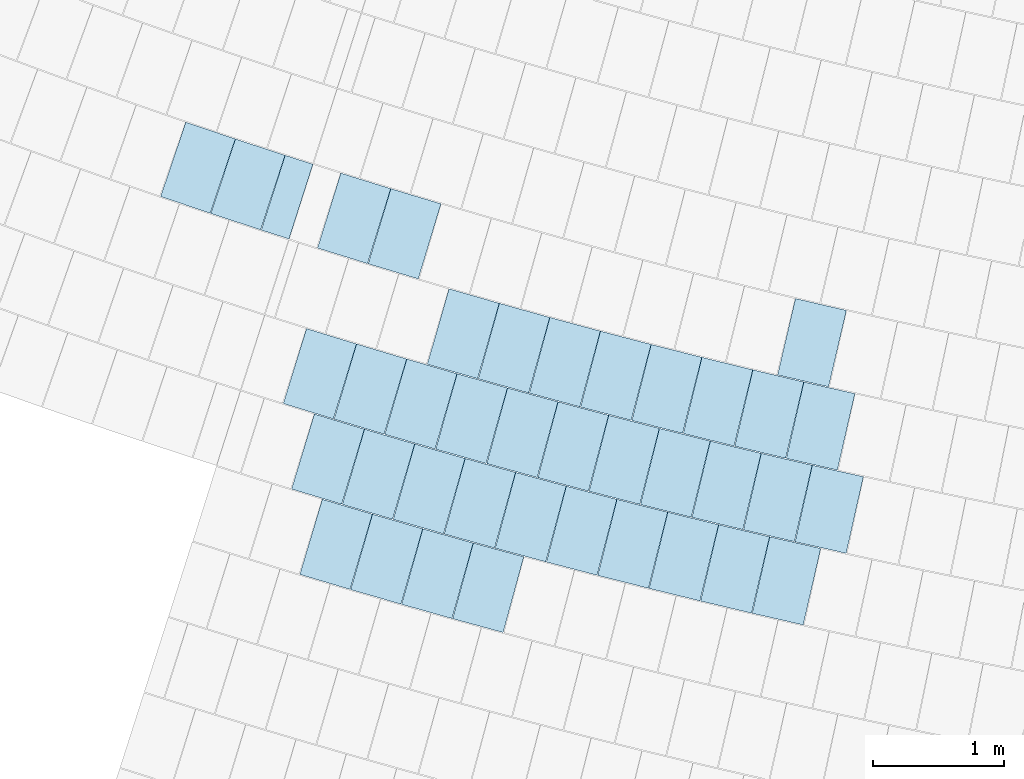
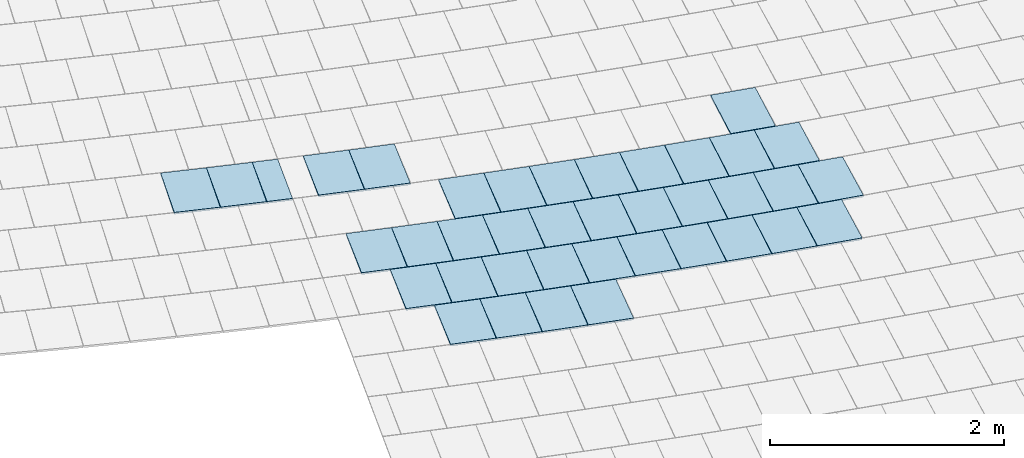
# One storey, part 99 of 438: 39 slabs.
"""IFC2X3 building model written with IfcOpenShell, lengths in millimetres."""

from ifc_helpers import new_model, entity, si_unit, converted_unit, derived_unit, direction, frame, origin, place, context, subcontext, project, spatial, polyline, outline, extrude, material, layer, layer_set, layer_usage, type_object, element, save


model = new_model("IFC2X3")

# Units and contexts
model_context = context("Model", 3, precision=0.01, world=origin(), true_north=direction((6.123031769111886e-17, 1.0)))
body_context = subcontext(model_context, "Body", "Model", "MODEL_VIEW")
ifc_project = project(units=[si_unit("LENGTHUNIT", "METRE", prefix="MILLI"), si_unit("AREAUNIT", "SQUARE_METRE"), si_unit("VOLUMEUNIT", "CUBIC_METRE"), converted_unit("PLANEANGLEUNIT", "DEGREE", entity("IfcRatioMeasure", 0.017453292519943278), si_unit("PLANEANGLEUNIT", "RADIAN"), dimensions=[0, 0, 0, 0, 0, 0, 0]), si_unit("MASSUNIT", "GRAM", prefix="KILO"), derived_unit("MASSDENSITYUNIT", [(si_unit("MASSUNIT", "GRAM", prefix="KILO"), 1), (si_unit("LENGTHUNIT", "METRE"), -3)]), derived_unit("MOMENTOFINERTIAUNIT", [(si_unit("LENGTHUNIT", "METRE"), 4)]), si_unit("TIMEUNIT", "SECOND"), si_unit("FREQUENCYUNIT", "HERTZ"), si_unit("THERMODYNAMICTEMPERATUREUNIT", "DEGREE_CELSIUS"), derived_unit("THERMALTRANSMITTANCEUNIT", [(si_unit("MASSUNIT", "GRAM", prefix="KILO"), 1), (si_unit("THERMODYNAMICTEMPERATUREUNIT", "KELVIN"), -1), (si_unit("TIMEUNIT", "SECOND"), -3)]), derived_unit("THERMALCONDUCTANCEUNIT", [(si_unit("MASSUNIT", "GRAM", prefix="KILO"), 1), (si_unit("LENGTHUNIT", "METRE"), 1), (si_unit("THERMODYNAMICTEMPERATUREUNIT", "KELVIN"), -1), (si_unit("TIMEUNIT", "SECOND"), -3)]), derived_unit("VOLUMETRICFLOWRATEUNIT", [(si_unit("LENGTHUNIT", "METRE"), 3), (si_unit("TIMEUNIT", "SECOND"), -1)]), derived_unit("MASSFLOWRATEUNIT", [(si_unit("MASSUNIT", "GRAM", prefix="KILO"), 1), (si_unit("TIMEUNIT", "SECOND"), -1)]), derived_unit("ROTATIONALFREQUENCYUNIT", [(si_unit("TIMEUNIT", "SECOND"), -1)]), si_unit("ELECTRICCURRENTUNIT", "AMPERE"), si_unit("ELECTRICVOLTAGEUNIT", "VOLT"), si_unit("POWERUNIT", "WATT"), converted_unit("FORCEUNIT", "KIP", entity("IfcRatioMeasure", 2.088543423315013e-05), si_unit("FORCEUNIT", "NEWTON"), dimensions=[1, 1, -2, 0, 0, 0, 0]), si_unit("ILLUMINANCEUNIT", "LUX"), si_unit("LUMINOUSFLUXUNIT", "LUMEN"), si_unit("LUMINOUSINTENSITYUNIT", "CANDELA"), derived_unit("USERDEFINED", [(si_unit("MASSUNIT", "GRAM", prefix="KILO"), -1), (si_unit("LENGTHUNIT", "METRE"), -2), (si_unit("TIMEUNIT", "SECOND"), 3), (si_unit("LUMINOUSFLUXUNIT", "LUMEN"), 1)]), derived_unit("USERDEFINED", [(si_unit("MASSUNIT", "GRAM", prefix="KILO"), 1), (si_unit("LENGTHUNIT", "METRE"), 3), (si_unit("TIMEUNIT", "SECOND"), -3), (si_unit("ELECTRICCURRENTUNIT", "AMPERE"), -2)]), derived_unit("USERDEFINED", [(si_unit("LENGTHUNIT", "METRE"), 2), (si_unit("TIMEUNIT", "SECOND"), -2)]), derived_unit("SOUNDPOWERUNIT", [(si_unit("MASSUNIT", "GRAM", prefix="KILO"), 1), (si_unit("LENGTHUNIT", "METRE"), 2), (si_unit("TIMEUNIT", "SECOND"), -3)]), derived_unit("SOUNDPRESSUREUNIT", [(si_unit("MASSUNIT", "GRAM", prefix="KILO"), 1), (si_unit("LENGTHUNIT", "METRE"), -1), (si_unit("TIMEUNIT", "SECOND"), -2)]), derived_unit("LINEARVELOCITYUNIT", [(si_unit("LENGTHUNIT", "METRE"), 1), (si_unit("TIMEUNIT", "SECOND"), -1)]), si_unit("PRESSUREUNIT", "PASCAL"), derived_unit("USERDEFINED", [(si_unit("LENGTHUNIT", "METRE"), -2), (si_unit("MASSUNIT", "GRAM", prefix="KILO"), 1), (si_unit("TIMEUNIT", "SECOND"), -2)]), derived_unit("LINEARFORCEUNIT", [(si_unit("MASSUNIT", "GRAM", prefix="KILO"), 1), (si_unit("LENGTHUNIT", "METRE"), 1), (si_unit("TIMEUNIT", "SECOND"), -2), (si_unit("LENGTHUNIT", "METRE"), -1)]), derived_unit("PLANARFORCEUNIT", [(si_unit("MASSUNIT", "GRAM", prefix="KILO"), 1), (si_unit("LENGTHUNIT", "METRE"), 1), (si_unit("TIMEUNIT", "SECOND"), -2), (si_unit("LENGTHUNIT", "METRE"), -2)]), derived_unit("SPECIFICHEATCAPACITYUNIT", [(si_unit("LENGTHUNIT", "METRE"), 2), (si_unit("TIMEUNIT", "SECOND"), -2), (si_unit("THERMODYNAMICTEMPERATUREUNIT", "KELVIN"), -1)]), derived_unit("VAPORPERMEABILITYUNIT", [(si_unit("TIMEUNIT", "SECOND"), 1), (si_unit("LENGTHUNIT", "METRE"), -1)]), derived_unit("DYNAMICVISCOSITYUNIT", [(si_unit("MASSUNIT", "GRAM", prefix="KILO"), 1), (si_unit("LENGTHUNIT", "METRE"), -1), (si_unit("TIMEUNIT", "SECOND"), -1)]), derived_unit("THERMALEXPANSIONCOEFFICIENTUNIT", [(si_unit("THERMODYNAMICTEMPERATUREUNIT", "KELVIN"), -1)])], contexts=[model_context])

# Site, building, storey
site_placement = place(None, frame((0.0, 0.0, 0.0), z_axis=(0.0, 0.0, 1.0), x_axis=(0.8191520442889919, 0.5735764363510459, 0.0)))
site = spatial("IfcSite", under=ifc_project, at=site_placement, Name="Default", CompositionType="ELEMENT")
building_placement = place(site_placement, origin())
building = spatial("IfcBuilding", under=site, at=building_placement, CompositionType="ELEMENT")
storey_placement = place(building_placement, origin())
storey = spatial("IfcBuildingStorey", under=building, at=storey_placement, Name="PLAN", CompositionType="ELEMENT", Elevation=0.0)

# Slabs
ifc_material = material(Name="Paint-01")
ifc_layer = layer(ifc_material, 20.00000000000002)
ifc_layer_set = layer_set([ifc_layer], Name="Floor:Slab-179:1000")
ifc_layer_usage = layer_usage(ifc_layer_set, "AXIS3", "POSITIVE", 0.0)
slab_type = type_object("IfcSlabType", Name="Floor:Slab-179:1000", PredefinedType="FLOOR", material=ifc_layer_set)
slab_1_placement = place(storey_placement, origin())
element("IfcSlab", 1, at=slab_1_placement, inside=storey, type_object=slab_type, material=ifc_layer_usage, Name="Floor:Slab-179:1000", ObjectType="Floor:Slab-179:1000", PredefinedType="FLOOR", context=body_context, shape_type="SweptSolid", body=[
    extrude(outline(polyline([(-200.00000134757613, -299.9999986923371), (200.00000453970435, -299.99999869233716), (200.0000013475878, 299.9999986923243), (-200.00000453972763, 299.9999986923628), (-200.00000134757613, -299.9999986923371)])), frame((-78421.81904074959, -102657.59447670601, 520.0), z_axis=(0.0, 0.0, -1.0), x_axis=(0.6734575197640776, -0.739225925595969, 0.0)), (0.0, 0.0, 1.0), 20.000000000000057),
])
slab_2_placement = place(storey_placement, origin())
element("IfcSlab", 2, at=slab_2_placement, inside=storey, type_object=slab_type, material=ifc_layer_usage, Name="Floor:Slab-179:1000", ObjectType="Floor:Slab-179:1000", PredefinedType="FLOOR", context=body_context, shape_type="SweptSolid", body=[
    extrude(outline(polyline([(-200.00000134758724, -299.99999869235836), (200.00000453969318, -299.99999869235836), (200.00000134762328, 299.99999869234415), (-200.00000453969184, 299.9999986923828), (-200.00000134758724, -299.99999869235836)])), frame((-77800.33188114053, -101540.63108631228, 520.0), z_axis=(0.0, 0.0, -1.0), x_axis=(0.667455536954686, -0.7446496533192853, 0.0)), (0.0, 0.0, 1.0), 20.000000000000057),
])
slab_3_placement = place(storey_placement, origin())
element("IfcSlab", 3, at=slab_3_placement, inside=storey, type_object=slab_type, material=ifc_layer_usage, Name="Floor:Slab-179:1000", ObjectType="Floor:Slab-179:1000", PredefinedType="FLOOR", context=body_context, shape_type="SweptSolid", body=[
    extrude(outline(polyline([(-200.00000134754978, -299.9999986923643), (200.00000453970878, -299.9999986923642), (200.00000134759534, 299.99999869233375), (-200.0000045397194, 299.9999986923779), (-200.00000134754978, -299.9999986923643)])), frame((-80118.49774463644, -98759.22815788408, 520.0), z_axis=(0.0, 0.0, -1.0), x_axis=(0.6121922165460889, -0.7907089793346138, 0.0)), (0.0, 0.0, 1.0), 20.000000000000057),
])
slab_4_placement = place(storey_placement, origin())
element("IfcSlab", 4, at=slab_4_placement, inside=storey, type_object=slab_type, material=ifc_layer_usage, Name="Floor:Slab-179:1000", ObjectType="Floor:Slab-179:1000", PredefinedType="FLOOR", context=body_context, shape_type="SweptSolid", body=[
    extrude(outline(polyline([(-200.0000013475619, -299.99999869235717), (200.00000453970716, -299.9999986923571), (200.00000134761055, 299.9999986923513), (-200.00000453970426, 299.99999869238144), (-200.0000013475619, -299.99999869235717)])), frame((-79870.88447537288, -99076.4184600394, 520.0), z_axis=(0.0, 0.0, -1.0), x_axis=(0.6184944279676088, -0.7857891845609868, 0.0)), (0.0, 0.0, 1.0), 20.000000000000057),
])
slab_5_placement = place(storey_placement, origin())
element("IfcSlab", 5, at=slab_5_placement, inside=storey, type_object=slab_type, material=ifc_layer_usage, Name="Floor:Slab-179:1000", ObjectType="Floor:Slab-179:1000", PredefinedType="FLOOR", context=body_context, shape_type="SweptSolid", body=[
    extrude(outline(polyline([(-200.00000134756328, -299.9999986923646), (200.0000045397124, -299.9999986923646), (200.00000134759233, 299.99999869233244), (-200.0000045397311, 299.99999869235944), (-200.00000134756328, -299.9999986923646)])), frame((-78111.37484290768, -102099.40283502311, 520.0), z_axis=(0.0, 0.0, -1.0), x_axis=(0.6704978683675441, -0.7419114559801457, 0.0)), (0.0, 0.0, 1.0), 19.999999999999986),
])
slab_6_placement = place(storey_placement, origin())
element("IfcSlab", 6, at=slab_6_placement, inside=storey, type_object=slab_type, material=ifc_layer_usage, Name="Floor:Slab-179:1000", ObjectType="Floor:Slab-179:1000", PredefinedType="FLOOR", context=body_context, shape_type="SweptSolid", body=[
    extrude(outline(polyline([(-200.00000134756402, -299.9999986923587), (200.00000453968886, -299.9999986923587), (200.00000134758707, 299.9999986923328), (-200.00000453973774, 299.99999869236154), (-200.00000134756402, -299.9999986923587)])), frame((-78379.97969985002, -101799.8190437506, 520.0), z_axis=(0.0, 0.0, -1.0), x_axis=(0.664616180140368, -0.7471849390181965, 0.0)), (0.0, 0.0, 1.0), 20.000000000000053),
])
slab_7_placement = place(storey_placement, origin())
element("IfcSlab", 7, at=slab_7_placement, inside=storey, type_object=slab_type, material=ifc_layer_usage, Name="Floor:Slab-179:1000", ObjectType="Floor:Slab-179:1000", PredefinedType="FLOOR", context=body_context, shape_type="SweptSolid", body=[
    extrude(outline(polyline([(-200.00000134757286, -299.9999986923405), (200.00000453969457, -299.9999986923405), (200.00000134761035, 299.9999986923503), (-200.0000045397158, 299.99999869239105), (-200.00000134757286, -299.9999986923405)])), frame((-78646.20959835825, -101498.12274230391, 520.0), z_axis=(0.0, 0.0, -1.0), x_axis=(0.6586930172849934, -0.7524117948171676, 0.0)), (0.0, 0.0, 1.0), 19.999999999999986),
])
slab_8_placement = place(storey_placement, origin())
element("IfcSlab", 8, at=slab_8_placement, inside=storey, type_object=slab_type, material=ifc_layer_usage, Name="Floor:Slab-179:1000", ObjectType="Floor:Slab-179:1000", PredefinedType="FLOOR", context=body_context, shape_type="SweptSolid", body=[
    extrude(outline(polyline([(-200.00000134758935, -299.99999869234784), (200.00000453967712, -299.9999986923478), (200.00000134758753, 299.9999986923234), (-200.00000453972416, 299.99999869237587), (-200.00000134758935, -299.99999869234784)])), frame((-78910.04792465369, -101194.33275770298, 520.0), z_axis=(0.0, 0.0, -1.0), x_axis=(0.6527287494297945, -0.7575916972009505, 0.0)), (0.0, 0.0, 1.0), 19.999999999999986),
])
slab_9_placement = place(storey_placement, origin())
element("IfcSlab", 9, at=slab_9_placement, inside=storey, type_object=slab_type, material=ifc_layer_usage, Name="Floor:Slab-179:1000", ObjectType="Floor:Slab-179:1000", PredefinedType="FLOOR", context=body_context, shape_type="SweptSolid", body=[
    extrude(outline(polyline([(-200.000001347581, -299.99999869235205), (200.00000453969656, -299.99999869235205), (200.0000013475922, 299.99999869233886), (-200.00000453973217, 299.9999986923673), (-200.000001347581, -299.99999869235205)])), frame((-79171.47821420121, -100888.46804762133, 520.0), z_axis=(0.0, 0.0, -1.0), x_axis=(0.6467237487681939, -0.7627243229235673, 0.0)), (0.0, 0.0, 1.0), 19.999999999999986),
])
slab_10_placement = place(storey_placement, origin())
element("IfcSlab", 10, at=slab_10_placement, inside=storey, type_object=slab_type, material=ifc_layer_usage, Name="Floor:Slab-179:1000", ObjectType="Floor:Slab-179:1000", PredefinedType="FLOOR", context=body_context, shape_type="SweptSolid", body=[
    extrude(outline(polyline([(-200.000001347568, -299.9999986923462), (200.00000453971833, -299.9999986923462), (200.00000134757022, 299.99999869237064), (-200.00000453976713, 299.99999869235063), (-200.000001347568, -299.9999986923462)])), frame((-79430.48415273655, -100580.54769920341, 520.0), z_axis=(0.0, 0.0, -1.0), x_axis=(0.6406783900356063, -0.7678093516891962, 0.0)), (0.0, 0.0, 1.0), 19.999999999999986),
])
slab_11_placement = place(storey_placement, origin())
element("IfcSlab", 11, at=slab_11_placement, inside=storey, type_object=slab_type, material=ifc_layer_usage, Name="Floor:Slab-179:1000", ObjectType="Floor:Slab-179:1000", PredefinedType="FLOOR", context=body_context, shape_type="SweptSolid", body=[
    extrude(outline(polyline([(-200.00000134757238, -299.9999986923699), (200.00000453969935, -299.9999986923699), (200.0000013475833, 299.9999986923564), (-200.00000453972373, 299.99999869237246), (-200.00000134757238, -299.9999986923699)])), frame((-79941.15847716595, -99958.61707613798, 520.0), z_axis=(0.0, 0.0, -1.0), x_axis=(0.6284681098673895, -0.7778353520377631, 0.0)), (0.0, 0.0, 1.0), 20.000000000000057),
])
slab_12_placement = place(storey_placement, origin())
element("IfcSlab", 12, at=slab_12_placement, inside=storey, type_object=slab_type, material=ifc_layer_usage, Name="Floor:Slab-179:1000", ObjectType="Floor:Slab-179:1000", PredefinedType="FLOOR", context=body_context, shape_type="SweptSolid", body=[
    extrude(outline(polyline([(-200.00000134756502, -299.9999986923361), (200.00000453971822, -299.9999986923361), (200.00000134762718, 299.99999869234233), (-200.00000453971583, 299.9999986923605), (-200.00000134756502, -299.9999986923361)])), frame((-79687.04957728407, -100270.59092787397, 520.0), z_axis=(0.0, 0.0, -1.0), x_axis=(0.6345930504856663, -0.7728464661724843, 0.0)), (0.0, 0.0, 1.0), 19.999999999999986),
])
slab_13_placement = place(storey_placement, origin())
element("IfcSlab", 13, at=slab_13_placement, inside=storey, type_object=slab_type, material=ifc_layer_usage, Name="Floor:Slab-179:1000", ObjectType="Floor:Slab-179:1000", PredefinedType="FLOOR", context=body_context, shape_type="SweptSolid", body=[
    extrude(outline(polyline([(-200.00000134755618, -299.9999986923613), (200.00000453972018, -299.99999869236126), (200.00000134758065, 299.99999869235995), (-200.00000453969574, 299.99999869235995), (-200.00000134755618, -299.9999986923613)])), frame((-78691.61422848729, -102359.11982763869, 520.0), z_axis=(0.0, 0.0, -1.0), x_axis=(0.6676663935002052, -0.7444606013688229, 0.0)), (0.0, 0.0, 1.0), 19.999999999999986),
])
slab_14_placement = place(storey_placement, origin())
element("IfcSlab", 14, at=slab_14_placement, inside=storey, type_object=slab_type, material=ifc_layer_usage, Name="Floor:Slab-179:1000", ObjectType="Floor:Slab-179:1000", PredefinedType="FLOOR", context=body_context, shape_type="SweptSolid", body=[
    extrude(outline(polyline([(-200.0000013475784, -299.99999869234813), (200.00000453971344, -299.9999986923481), (200.0000013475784, 299.99999869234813), (-200.0000045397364, 299.99999869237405), (-200.0000013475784, -299.99999869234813)])), frame((-78959.07121829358, -102058.54817550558, 520.0), z_axis=(0.0, 0.0, -1.0), x_axis=(0.6618345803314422, -0.749649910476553, 0.0)), (0.0, 0.0, 1.0), 19.999999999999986),
])
slab_15_placement = place(storey_placement, origin())
element("IfcSlab", 15, at=slab_15_placement, inside=storey, type_object=slab_type, material=ifc_layer_usage, Name="Floor:Slab-179:1000", ObjectType="Floor:Slab-179:1000", PredefinedType="FLOOR", context=body_context, shape_type="SweptSolid", body=[
    extrude(outline(polyline([(-200.0000013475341, -299.9999986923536), (200.00000453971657, -299.9999986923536), (200.0000013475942, 299.9999986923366), (-200.00000453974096, 299.99999869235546), (-200.0000013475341, -299.9999986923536)])), frame((-79486.90555337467, -101451.18725482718, 520.0), z_axis=(0.0, 0.0, -1.0), x_axis=(0.6500503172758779, -0.7598911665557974, 0.0)), (0.0, 0.0, 1.0), 20.000000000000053),
])
slab_16_placement = place(storey_placement, origin())
element("IfcSlab", 16, at=slab_16_placement, inside=storey, type_object=slab_type, material=ifc_layer_usage, Name="Floor:Slab-179:1000", ObjectType="Floor:Slab-179:1000", PredefinedType="FLOOR", context=body_context, shape_type="SweptSolid", body=[
    extrude(outline(polyline([(-200.00000134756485, -299.9999986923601), (200.00000453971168, -299.9999986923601), (200.00000134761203, 299.99999869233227), (-200.00000453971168, 299.9999986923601), (-200.00000134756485, -299.9999986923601)])), frame((-79224.17371161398, -101755.89783683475, 520.0), z_axis=(0.0, 0.0, -1.0), x_axis=(0.6559624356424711, -0.7547935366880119, 0.0)), (0.0, 0.0, 1.0), 20.000000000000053),
])
slab_17_placement = place(storey_placement, origin())
element("IfcSlab", 17, at=slab_17_placement, inside=storey, type_object=slab_type, material=ifc_layer_usage, Name="Floor:Slab-179:1000", ObjectType="Floor:Slab-179:1000", PredefinedType="FLOOR", context=body_context, shape_type="SweptSolid", body=[
    extrude(outline(polyline([(-200.0000013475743, -299.9999986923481), (200.00000453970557, -299.9999986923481), (200.00000134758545, 299.9999986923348), (-200.0000045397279, 299.99999869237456), (-200.0000013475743, -299.9999986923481)])), frame((-79747.2507329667, -101144.43499823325, 520.0), z_axis=(0.0, 0.0, -1.0), x_axis=(0.6440985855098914, -0.7649424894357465, 0.0)), (0.0, 0.0, 1.0), 20.000000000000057),
])
slab_18_placement = place(storey_placement, origin())
element("IfcSlab", 18, at=slab_18_placement, inside=storey, type_object=slab_type, material=ifc_layer_usage, Name="Floor:Slab-179:1000", ObjectType="Floor:Slab-179:1000", PredefinedType="FLOOR", context=body_context, shape_type="SweptSolid", body=[
    extrude(outline(polyline([(-200.000001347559, -299.999998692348), (200.00000453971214, -299.99999869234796), (200.00000134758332, 299.9999986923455), (-200.0000045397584, 299.99999869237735), (-200.000001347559, -299.999998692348)])), frame((-80260.71779138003, -100524.88035723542, 520.0), z_axis=(0.0, 0.0, -1.0), x_axis=(0.6320777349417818, -0.7749049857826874, 0.0)), (0.0, 0.0, 1.0), 19.999999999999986),
])
slab_19_placement = place(storey_placement, origin())
element("IfcSlab", 19, at=slab_19_placement, inside=storey, type_object=slab_type, material=ifc_layer_usage, Name="Floor:Slab-179:1000", ObjectType="Floor:Slab-179:1000", PredefinedType="FLOOR", context=body_context, shape_type="SweptSolid", body=[
    extrude(outline(polyline([(-200.00000134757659, -299.99999869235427), (200.00000453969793, -299.99999869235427), (200.00000134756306, 299.9999986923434), (-200.00000453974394, 299.99999869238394), (-200.00000134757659, -299.99999869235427)])), frame((-80513.80838004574, -100212.11572785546, 520.0), z_axis=(0.0, 0.0, -1.0), x_axis=(0.6260093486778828, -0.7798155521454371, 0.0)), (0.0, 0.0, 1.0), 20.000000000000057),
])
slab_20_placement = place(storey_placement, origin())
element("IfcSlab", 20, at=slab_20_placement, inside=storey, type_object=slab_type, material=ifc_layer_usage, Name="Floor:Slab-179:1000", ObjectType="Floor:Slab-179:1000", PredefinedType="FLOOR", context=body_context, shape_type="SweptSolid", body=[
    extrude(outline(polyline([(-200.00000134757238, -299.9999986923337), (200.00000453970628, -299.99999869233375), (200.00000134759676, 299.99999869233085), (-200.00000453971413, 299.99999869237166), (-200.00000134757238, -299.9999986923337)])), frame((-80764.44972813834, -99897.38493163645, 520.0), z_axis=(0.0, 0.0, -1.0), x_axis=(0.6199028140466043, -0.7846785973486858, 0.0)), (0.0, 0.0, 1.0), 20.000000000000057),
])
slab_21_placement = place(storey_placement, origin())
element("IfcSlab", 21, at=slab_21_placement, inside=storey, type_object=slab_type, material=ifc_layer_usage, Name="Floor:Slab-179:1000", ObjectType="Floor:Slab-179:1000", PredefinedType="FLOOR", context=body_context, shape_type="SweptSolid", body=[
    extrude(outline(polyline([(-200.00000134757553, -299.9999986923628), (200.0000045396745, -299.9999986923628), (200.0000013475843, 299.99999869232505), (-200.00000453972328, 299.9999986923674), (-200.00000134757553, -299.9999986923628)])), frame((-80005.19338522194, -100835.65976022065, 520.0), z_axis=(0.0, 0.0, -1.0), x_axis=(0.6381076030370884, -0.7699471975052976, 0.0)), (0.0, 0.0, 1.0), 20.000000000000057),
])
slab_22_placement = place(storey_placement, origin())
element("IfcSlab", 22, at=slab_22_placement, inside=storey, type_object=slab_type, material=ifc_layer_usage, Name="Floor:Slab-179:1000", ObjectType="Floor:Slab-179:1000", PredefinedType="FLOOR", context=body_context, shape_type="SweptSolid", body=[
    extrude(outline(polyline([(-200.00000134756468, -299.99999869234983), (200.00000453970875, -299.99999869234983), (200.0000013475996, 299.9999986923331), (-200.00000453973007, 299.9999986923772), (-200.00000134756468, -299.99999869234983)])), frame((-81012.62656183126, -99580.70714795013, 520.0), z_axis=(0.0, 0.0, -1.0), x_axis=(0.6137585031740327, -0.7894938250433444, 0.0)), (0.0, 0.0, 1.0), 20.000000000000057),
])
slab_23_placement = place(storey_placement, origin())
element("IfcSlab", 23, at=slab_23_placement, inside=storey, type_object=slab_type, material=ifc_layer_usage, Name="Floor:Slab-179:1000", ObjectType="Floor:Slab-179:1000", PredefinedType="FLOOR", context=body_context, shape_type="SweptSolid", body=[
    extrude(outline(polyline([(-200.00000134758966, -299.99999869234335), (200.00000453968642, -299.99999869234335), (200.00000134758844, 299.9999986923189), (-200.00000453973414, 299.9999986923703), (-200.00000134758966, -299.99999869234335)])), frame((-79002.64103923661, -102917.83722285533, 520.0), z_axis=(0.0, 0.0, -1.0), x_axis=(0.6706346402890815, -0.7417878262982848, 0.0)), (0.0, 0.0, 1.0), 20.000000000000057),
])
slab_24_placement = place(storey_placement, origin())
element("IfcSlab", 24, at=slab_24_placement, inside=storey, type_object=slab_type, material=ifc_layer_usage, Name="Floor:Slab-179:1000", ObjectType="Floor:Slab-179:1000", PredefinedType="FLOOR", context=body_context, shape_type="SweptSolid", body=[
    extrude(outline(polyline([(-200.00000134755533, -299.99999869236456), (200.00000453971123, -299.99999869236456), (200.00000134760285, 299.9999986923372), (-200.00000453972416, 299.999998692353), (-200.00000134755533, -299.99999869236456)])), frame((-79271.29189780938, -102618.36878896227, 520.0), z_axis=(0.0, 0.0, -1.0), x_axis=(0.6648916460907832, -0.746939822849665, 0.0)), (0.0, 0.0, 1.0), 20.000000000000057),
])
slab_25_placement = place(storey_placement, origin())
element("IfcSlab", 25, at=slab_25_placement, inside=storey, type_object=slab_type, material=ifc_layer_usage, Name="Floor:Slab-179:1000", ObjectType="Floor:Slab-179:1000", PredefinedType="FLOOR", context=body_context, shape_type="SweptSolid", body=[
    extrude(outline(polyline([(-200.0000013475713, -299.99999869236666), (200.00000453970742, -299.9999986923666), (200.00000134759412, 299.9999986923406), (-200.00000453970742, 299.9999986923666), (-200.0000013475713, -299.99999869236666)])), frame((-79537.62430462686, -102316.83657544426, 520.0), z_axis=(0.0, 0.0, -1.0), x_axis=(0.6591090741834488, -0.7520473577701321, 0.0)), (0.0, 0.0, 1.0), 20.000000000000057),
])
slab_26_placement = place(storey_placement, origin())
element("IfcSlab", 26, at=slab_26_placement, inside=storey, type_object=slab_type, material=ifc_layer_usage, Name="Floor:Slab-179:1000", ObjectType="Floor:Slab-179:1000", PredefinedType="FLOOR", context=body_context, shape_type="SweptSolid", body=[
    extrude(outline(polyline([(-200.00000134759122, -299.99999869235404), (200.0000045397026, -299.999998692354), (200.00000134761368, 299.99999869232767), (-200.00000453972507, 299.9999986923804), (-200.00000134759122, -299.99999869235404)])), frame((-80063.27048814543, -101707.65272619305, 520.0), z_axis=(0.0, 0.0, -1.0), x_axis=(0.6474265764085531, -0.7621278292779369, 0.0)), (0.0, 0.0, 1.0), 20.000000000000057),
])
slab_27_placement = place(storey_placement, origin())
element("IfcSlab", 27, at=slab_27_placement, inside=storey, type_object=slab_type, material=ifc_layer_usage, Name="Floor:Slab-179:1000", ObjectType="Floor:Slab-179:1000", PredefinedType="FLOOR", context=body_context, shape_type="SweptSolid", body=[
    extrude(outline(polyline([(-200.00000134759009, -299.99999869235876), (200.00000453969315, -299.99999869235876), (200.0000013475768, 299.9999986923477), (-200.0000045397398, 299.9999986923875), (-200.00000134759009, -299.99999869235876)])), frame((-80322.55297573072, -101400.03735215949, 520.0), z_axis=(0.0, 0.0, -1.0), x_axis=(0.6415273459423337, -0.7671001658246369, 0.0)), (0.0, 0.0, 1.0), 19.999999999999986),
])
slab_28_placement = place(storey_placement, origin())
element("IfcSlab", 28, at=slab_28_placement, inside=storey, type_object=slab_type, material=ifc_layer_usage, Name="Floor:Slab-179:1000", ObjectType="Floor:Slab-179:1000", PredefinedType="FLOOR", context=body_context, shape_type="SweptSolid", body=[
    extrude(outline(polyline([(-200.00000134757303, -299.9999986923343), (200.00000453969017, -299.9999986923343), (200.0000013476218, 299.9999986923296), (-200.0000045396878, 299.9999986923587), (-200.00000134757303, -299.9999986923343)])), frame((-80579.45443519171, -101090.43071974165, 520.0), z_axis=(0.0, 0.0, -1.0), x_axis=(0.6355899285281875, -0.7720268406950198, 0.0)), (0.0, 0.0, 1.0), 20.000000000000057),
])
slab_29_placement = place(storey_placement, origin())
element("IfcSlab", 29, at=slab_29_placement, inside=storey, type_object=slab_type, material=ifc_layer_usage, Name="Floor:Slab-179:1000", ObjectType="Floor:Slab-179:1000", PredefinedType="FLOOR", context=body_context, shape_type="SweptSolid", body=[
    extrude(outline(polyline([(-200.00000134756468, -299.99999869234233), (200.00000453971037, -299.99999869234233), (200.00000134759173, 299.99999869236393), (-200.00000453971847, 299.99999869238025), (-200.00000134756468, -299.99999869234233)])), frame((-81086.05324409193, -100465.31751458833, 520.0), z_axis=(0.0, 0.0, -1.0), x_axis=(0.6236019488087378, -0.7817420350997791, 0.0)), (0.0, 0.0, 1.0), 20.000000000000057),
])
slab_30_placement = place(storey_placement, origin())
element("IfcSlab", 30, at=slab_30_placement, inside=storey, type_object=slab_type, material=ifc_layer_usage, Name="Floor:Slab-179:1000", ObjectType="Floor:Slab-179:1000", PredefinedType="FLOOR", context=body_context, shape_type="SweptSolid", body=[
    extrude(outline(polyline([(-200.00000134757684, -299.99999869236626), (200.000004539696, -299.9999986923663), (200.00000134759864, 299.9999986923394), (-200.00000453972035, 299.9999986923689), (-200.00000134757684, -299.99999869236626)])), frame((-80833.95957445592, -100778.85125829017, 520.0), z_axis=(0.0, 0.0, -1.0), x_axis=(0.6296146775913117, -0.7769075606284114, 0.0)), (0.0, 0.0, 1.0), 19.999999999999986),
])
slab_31_placement = place(storey_placement, origin())
element("IfcSlab", 31, at=slab_31_placement, inside=storey, type_object=slab_type, material=ifc_layer_usage, Name="Floor:Slab-179:1000", ObjectType="Floor:Slab-179:1000", PredefinedType="FLOOR", context=body_context, shape_type="SweptSolid", body=[
    extrude(outline(polyline([(-200.00000134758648, -299.99999869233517), (200.00000453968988, -299.99999869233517), (200.00000134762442, 299.99999869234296), (-200.00000453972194, 299.99999869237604), (-200.00000134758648, -299.99999869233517)])), frame((-81335.72043821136, -100149.84815174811, 520.0), z_axis=(0.0, 0.0, -1.0), x_axis=(0.6175521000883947, -0.7865299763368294, 0.0)), (0.0, 0.0, 1.0), 20.000000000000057),
])
slab_32_placement = place(storey_placement, origin())
element("IfcSlab", 32, at=slab_32_placement, inside=storey, type_object=slab_type, material=ifc_layer_usage, Name="Floor:Slab-179:1000", ObjectType="Floor:Slab-179:1000", PredefinedType="FLOOR", context=body_context, shape_type="SweptSolid", body=[
    extrude(outline(polyline([(-200.00000134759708, -299.9999986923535), (200.0000045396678, -299.9999986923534), (200.0000013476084, 299.99999869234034), (-200.0000045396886, 299.9999986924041), (-200.00000134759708, -299.9999986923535)])), frame((-79801.62240623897, -102013.25853102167, 520.0), z_axis=(0.0, 0.0, -1.0), x_axis=(0.653287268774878, -0.7571101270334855, 0.0)), (0.0, 0.0, 1.0), 20.000000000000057),
])
slab_33_placement = place(storey_placement, origin())
element("IfcSlab", 33, at=slab_33_placement, inside=storey, type_object=slab_type, material=ifc_layer_usage, Name="Floor:Slab-179:1000", ObjectType="Floor:Slab-179:1000", PredefinedType="FLOOR", context=body_context, shape_type="SweptSolid", body=[
    extrude(outline(polyline([(-200.00000134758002, -299.9999986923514), (200.0000045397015, -299.99999869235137), (200.00000134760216, 299.9999986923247), (-200.00000453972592, 299.99999869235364), (-200.00000134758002, -299.9999986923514)])), frame((-80897.40006613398, -101655.28927773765, 520.0), z_axis=(0.0, 0.0, -1.0), x_axis=(0.6390084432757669, -0.7691997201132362, 0.0)), (0.0, 0.0, 1.0), 20.000000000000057),
])
slab_34_placement = place(storey_placement, origin())
element("IfcSlab", 34, at=slab_34_placement, inside=storey, type_object=slab_type, material=ifc_layer_usage, Name="Floor:Slab-179:1000", ObjectType="Floor:Slab-179:1000", PredefinedType="FLOOR", context=body_context, shape_type="SweptSolid", body=[
    extrude(outline(polyline([(-200.00000134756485, -299.99999869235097), (200.00000453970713, -299.9999986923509), (200.00000134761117, 299.9999986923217), (-200.00000453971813, 299.99999869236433), (-200.00000134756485, -299.99999869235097)])), frame((-81153.28176627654, -101344.87382024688, 520.0), z_axis=(0.0, 0.0, -1.0), x_axis=(0.6331237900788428, -0.7740505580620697, 0.0)), (0.0, 0.0, 1.0), 20.000000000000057),
])
slab_35_placement = place(storey_placement, origin())
element("IfcSlab", 35, at=slab_35_placement, inside=storey, type_object=slab_type, material=ifc_layer_usage, Name="Floor:Slab-179:1000", ObjectType="Floor:Slab-179:1000", PredefinedType="FLOOR", context=body_context, shape_type="SweptSolid", body=[
    extrude(outline(polyline([(-200.0000013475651, -299.9999986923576), (200.00000453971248, -299.9999986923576), (200.0000013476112, 299.999998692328), (-200.00000453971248, 299.9999986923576), (-200.0000013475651, -299.9999986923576)])), frame((-81406.78873504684, -101032.51598458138, 520.0), z_axis=(0.0, 0.0, -1.0), x_axis=(0.6272023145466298, -0.7788563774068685, 0.0)), (0.0, 0.0, 1.0), 20.000000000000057),
])
slab_36_placement = place(storey_placement, origin())
element("IfcSlab", 36, at=slab_36_placement, inside=storey, type_object=slab_type, material=ifc_layer_usage, Name="Floor:Slab-179:1000", ObjectType="Floor:Slab-179:1000", PredefinedType="FLOOR", context=body_context, shape_type="SweptSolid", body=[
    extrude(outline(polyline([(-200.00000134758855, -299.9999986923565), (200.0000045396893, -299.9999986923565), (200.00000134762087, 299.9999986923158), (-200.0000045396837, 299.99999869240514), (-200.00000134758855, -299.9999986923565)])), frame((-81657.90622853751, -100718.23393740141, 520.0), z_axis=(0.0, 0.0, -1.0), x_axis=(0.6212443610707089, -0.7836168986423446, 0.0)), (0.0, 0.0, 1.0), 20.000000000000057),
])
slab_37_placement = place(storey_placement, origin())
element("IfcSlab", 37, at=slab_37_placement, inside=storey, type_object=slab_type, material=ifc_layer_usage, Name="Floor:Slab-179:1000", ObjectType="Floor:Slab-179:1000", PredefinedType="FLOOR", context=body_context, shape_type="SweptSolid", body=[
    extrude(outline(polyline([(-299.99999762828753, -200.00000294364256), (300.0, -200.0000029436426), (299.99999762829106, 200.00000294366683), (-300.0, 200.0000029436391), (-299.99999762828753, -200.00000294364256)])), frame((-80633.54272740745, -98082.2530009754, 520.0), z_axis=(0.0, 0.0, -1.0), x_axis=(-0.800942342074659, -0.5987414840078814, 0.0)), (0.0, 0.0, 1.0), 20.000000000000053),
])
slab_38_placement = place(storey_placement, origin())
element("IfcSlab", 38, at=slab_38_placement, inside=storey, type_object=slab_type, material=ifc_layer_usage, Name="Floor:Slab-179:1000", ObjectType="Floor:Slab-179:1000", PredefinedType="FLOOR", context=body_context, shape_type="SweptSolid", body=[
    extrude(outline(polyline([(-299.99999809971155, -111.39281523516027), (299.99999928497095, -111.39281523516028), (299.99999809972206, 111.39281523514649), (-299.999999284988, 111.39281523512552), (-299.99999809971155, -111.39281523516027)])), frame((-80444.94397157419, -98333.03994404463, 520.0), z_axis=(0.0, 0.0, -1.0), x_axis=(-0.7961297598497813, -0.6051259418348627, 0.0)), (0.0, 0.0, 1.0), 19.99999999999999),
])
slab_39_placement = place(storey_placement, origin())
element("IfcSlab", 39, at=slab_39_placement, inside=storey, type_object=slab_type, material=ifc_layer_usage, Name="Floor:Slab-179:1000", ObjectType="Floor:Slab-179:1000", PredefinedType="FLOOR", context=body_context, shape_type="SweptSolid", body=[
    extrude(outline(polyline([(-299.9999976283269, -200.00000294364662), (300.0, -200.00000294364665), (299.9999976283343, 200.00000294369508), (-300.0, 200.00000294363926), (-299.9999976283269, -200.00000294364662)])), frame((-80873.18319362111, -97758.99696336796, 520.0), z_axis=(0.0, 0.0, -1.0), x_axis=(-0.8057037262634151, -0.5923187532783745, 0.0)), (0.0, 0.0, 1.0), 20.000000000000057),
])

save(model, "model.ifc")
